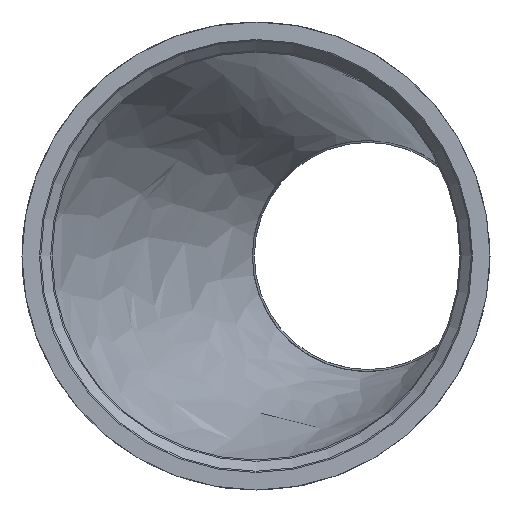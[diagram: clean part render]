
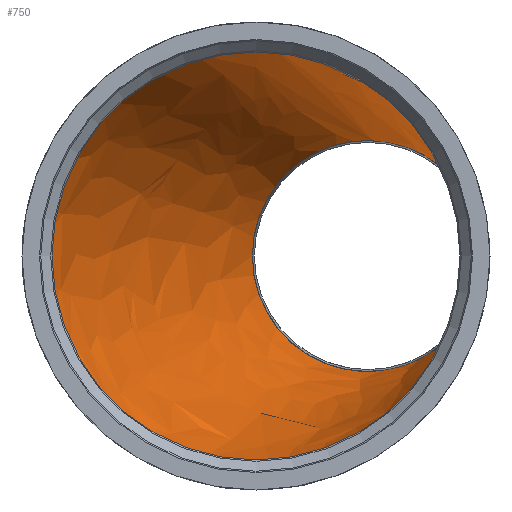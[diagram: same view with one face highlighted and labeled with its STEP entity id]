
A CAD part, left-side view. The second image highlights one B-rep face of the part: STEP entity #750.
In plain terms, the highlighted free-form (B-spline) face has degree [1, 2] with [2, 9] control points.
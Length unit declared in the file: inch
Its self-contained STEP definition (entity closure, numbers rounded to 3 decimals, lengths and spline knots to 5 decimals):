
#57=B_SPLINE_CURVE_WITH_KNOTS('',1,(#1385,#1386),.UNSPECIFIED.,.F.,.F.,
(2,2),(0.00905,2.40167),.UNSPECIFIED.);
#59=(
BOUNDED_SURFACE()
B_SPLINE_SURFACE(1,2,((#1367,#1368,#1369,#1370,#1371,#1372,#1373,#1374,
#1375),(#1376,#1377,#1378,#1379,#1380,#1381,#1382,#1383,#1384)),
 .UNSPECIFIED.,.F.,.T.,.F.)
B_SPLINE_SURFACE_WITH_KNOTS((2,2),(3,2,2,2,3),(-0.22044,2.51505),
(-3.14159,-1.5708,0.,1.5708,3.14159),
 .UNSPECIFIED.)
GEOMETRIC_REPRESENTATION_ITEM()
RATIONAL_B_SPLINE_SURFACE(((1.,0.707,1.,0.707,1.,
0.707,1.,0.707,1.),(1.,0.707,1.,0.707,
1.,0.707,1.,0.707,1.)))
REPRESENTATION_ITEM('')
SURFACE()
);
#127=FACE_OUTER_BOUND('',#159,.T.);
#159=EDGE_LOOP('',(#612,#613,#614,#615,#616,#617,#618,#619,#620,#621));
#209=CIRCLE('',#823,3.99);
#210=CIRCLE('',#824,3.99);
#211=CIRCLE('',#825,3.99);
#212=CIRCLE('',#826,3.99);
#223=CIRCLE('',#840,2.13);
#224=CIRCLE('',#841,2.13);
#225=CIRCLE('',#842,2.13);
#226=CIRCLE('',#843,2.13);
#298=VERTEX_POINT('',#1280);
#299=VERTEX_POINT('',#1281);
#300=VERTEX_POINT('',#1283);
#301=VERTEX_POINT('',#1285);
#311=VERTEX_POINT('',#1312);
#312=VERTEX_POINT('',#1313);
#313=VERTEX_POINT('',#1315);
#314=VERTEX_POINT('',#1317);
#391=EDGE_CURVE('',#298,#299,#209,.T.);
#392=EDGE_CURVE('',#299,#300,#210,.T.);
#393=EDGE_CURVE('',#300,#301,#211,.T.);
#395=EDGE_CURVE('',#301,#298,#212,.T.);
#407=EDGE_CURVE('',#311,#312,#223,.T.);
#408=EDGE_CURVE('',#312,#313,#224,.T.);
#409=EDGE_CURVE('',#313,#314,#225,.T.);
#411=EDGE_CURVE('',#314,#311,#226,.T.);
#435=EDGE_CURVE('',#299,#313,#57,.T.);
#612=ORIENTED_EDGE('',*,*,#391,.F.);
#613=ORIENTED_EDGE('',*,*,#395,.F.);
#614=ORIENTED_EDGE('',*,*,#393,.F.);
#615=ORIENTED_EDGE('',*,*,#392,.F.);
#616=ORIENTED_EDGE('',*,*,#435,.T.);
#617=ORIENTED_EDGE('',*,*,#408,.F.);
#618=ORIENTED_EDGE('',*,*,#407,.F.);
#619=ORIENTED_EDGE('',*,*,#411,.F.);
#620=ORIENTED_EDGE('',*,*,#409,.F.);
#621=ORIENTED_EDGE('',*,*,#435,.F.);
#750=ADVANCED_FACE('',(#127),#59,.T.);
#823=AXIS2_PLACEMENT_3D('',#1282,#1004,#1005);
#824=AXIS2_PLACEMENT_3D('',#1284,#1006,#1007);
#825=AXIS2_PLACEMENT_3D('',#1286,#1008,#1009);
#826=AXIS2_PLACEMENT_3D('',#1288,#1011,#1012);
#840=AXIS2_PLACEMENT_3D('',#1314,#1040,#1041);
#841=AXIS2_PLACEMENT_3D('',#1316,#1042,#1043);
#842=AXIS2_PLACEMENT_3D('',#1318,#1044,#1045);
#843=AXIS2_PLACEMENT_3D('',#1320,#1047,#1048);
#1004=DIRECTION('center_axis',(1.,0.,0.));
#1005=DIRECTION('ref_axis',(0.,1.,0.));
#1006=DIRECTION('center_axis',(1.,0.,0.));
#1007=DIRECTION('ref_axis',(0.,1.,0.));
#1008=DIRECTION('center_axis',(1.,0.,0.));
#1009=DIRECTION('ref_axis',(0.,1.,0.));
#1011=DIRECTION('center_axis',(1.,0.,0.));
#1012=DIRECTION('ref_axis',(0.,1.,0.));
#1040=DIRECTION('center_axis',(-1.,0.,0.));
#1041=DIRECTION('ref_axis',(0.,-1.,0.));
#1042=DIRECTION('center_axis',(-1.,0.,0.));
#1043=DIRECTION('ref_axis',(0.,-1.,0.));
#1044=DIRECTION('center_axis',(-1.,0.,0.));
#1045=DIRECTION('ref_axis',(0.,-1.,0.));
#1047=DIRECTION('center_axis',(-1.,0.,0.));
#1048=DIRECTION('ref_axis',(0.,-1.,0.));
#1280=CARTESIAN_POINT('',(1.58,-3.59825,-1.72414));
#1281=CARTESIAN_POINT('',(1.58,-0.16736,3.98649));
#1282=CARTESIAN_POINT('Origin',(1.58,0.,0.));
#1283=CARTESIAN_POINT('',(1.58,-3.59825,1.72414));
#1284=CARTESIAN_POINT('Origin',(1.58,0.,0.));
#1285=CARTESIAN_POINT('',(1.58,-3.99,0.));
#1286=CARTESIAN_POINT('Origin',(1.58,0.,0.));
#1288=CARTESIAN_POINT('Origin',(1.58,0.,0.));
#1312=CARTESIAN_POINT('',(10.74,-3.98337,-0.92041));
#1313=CARTESIAN_POINT('',(10.74,-3.98337,0.92041));
#1314=CARTESIAN_POINT('Origin',(10.74,-2.0625,0.));
#1315=CARTESIAN_POINT('',(10.74,-2.15184,2.12813));
#1316=CARTESIAN_POINT('Origin',(10.74,-2.0625,0.));
#1317=CARTESIAN_POINT('',(10.74,0.0675,0.));
#1318=CARTESIAN_POINT('Origin',(10.74,-2.0625,0.));
#1320=CARTESIAN_POINT('Origin',(10.74,-2.0625,0.));
#1367=CARTESIAN_POINT('Ctrl Pts',(0.70144,0.02297,
4.16473));
#1368=CARTESIAN_POINT('Ctrl Pts',(-0.15962,-3.95154,4.16473));
#1369=CARTESIAN_POINT('Ctrl Pts',(-0.15962,-3.95154,
0.));
#1370=CARTESIAN_POINT('Ctrl Pts',(-0.15962,-3.95154,
-4.16473));
#1371=CARTESIAN_POINT('Ctrl Pts',(0.70144,0.02297,-4.16473));
#1372=CARTESIAN_POINT('Ctrl Pts',(1.56251,3.99749,-4.16473));
#1373=CARTESIAN_POINT('Ctrl Pts',(1.56251,3.99749,0.));
#1374=CARTESIAN_POINT('Ctrl Pts',(1.56251,3.99749,4.16473));
#1375=CARTESIAN_POINT('Ctrl Pts',(0.70144,0.02297,
4.16473));
#1376=CARTESIAN_POINT('Ctrl Pts',(11.17408,-2.24589,2.04006));
#1377=CARTESIAN_POINT('Ctrl Pts',(10.75229,-4.19277,2.04006));
#1378=CARTESIAN_POINT('Ctrl Pts',(10.75229,-4.19277,0.));
#1379=CARTESIAN_POINT('Ctrl Pts',(10.75229,-4.19277,-2.04006));
#1380=CARTESIAN_POINT('Ctrl Pts',(11.17408,-2.24589,-2.04006));
#1381=CARTESIAN_POINT('Ctrl Pts',(11.59586,-0.299,-2.04006));
#1382=CARTESIAN_POINT('Ctrl Pts',(11.59586,-0.299,0.));
#1383=CARTESIAN_POINT('Ctrl Pts',(11.59586,-0.299,2.04006));
#1384=CARTESIAN_POINT('Ctrl Pts',(11.17408,-2.24589,2.04006));
#1385=CARTESIAN_POINT('Ctrl Pts',(1.58,-0.16736,3.98649));
#1386=CARTESIAN_POINT('Ctrl Pts',(10.74,-2.15184,2.12813));
